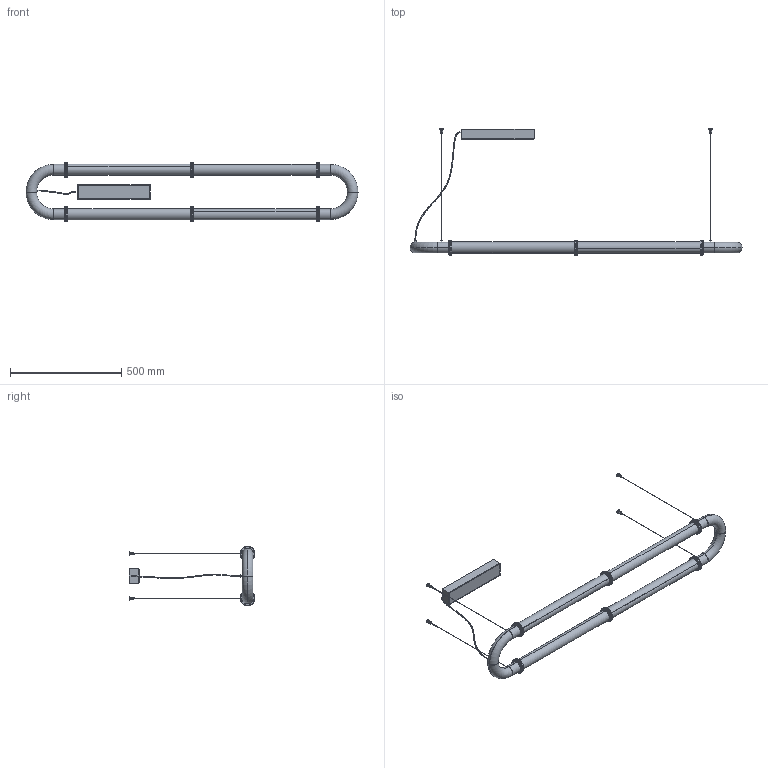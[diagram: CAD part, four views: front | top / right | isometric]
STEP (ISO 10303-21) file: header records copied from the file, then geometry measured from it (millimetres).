
FILE_DESCRIPTION (( 'STEP AP203' ), '1' );
FILE_NAME ('FBN05.LS02.AF01.R00 - Render.STEP', '2026-04-02T10:23:53', ( '' ), ( '' ), 'SwSTEP 2.0', 'SolidWorks 2025', '' );
FILE_SCHEMA (( 'CONFIG_CONTROL_DESIGN' ));
Length unit declared in the file: millimetre
Products named in the file (23): FBN05.LS03.C007.R1A; FBN05.LS01.C001.R00; FBN05.LS03.C016.R10; FBN05.LS02.AF01.R00 - Render; FBN05.LS03.C012.R10; Rosone Cilindrico Ø16 Ø10x18 - Beretta 2031.0802; FBN05.LS04.C010.R10; FBN05.LS02.C001.R00; FBN05.LS03.C006.R1A; FBN05.LS04.C024.R1A; FBN05.LS04.C008.R1A; FBN05.LS01.C003.R00; FBN05.LS03.C098.R00; FBN05.LS03.C014.R1A; FBN05.LS03.C010.R1A; Morsetto Automatico M8x1 Fune Acciaio - Beretta 1010-0802; FBN05.LS01.C095.R00; Grani Steab_GRANO M4X0.7 L.4 NERO CAVA ESAGONALE; F44 M01; FBN05.LS03.C015.R1A; FBN05.LS03.C009.R1A; FBN05.LS01.C002.R00; socket countersunk head screw_1_iso_ISO 10642 - M3 x 6 - 6C
Assembly tree (158 placements, depth 2):
  FBN05.LS02.AF01.R00 - Render
    Grani Steab_GRANO M4X0.7 L.4 NERO CAVA ESAGONALE
    Rosone Cilindrico Ø16 Ø10x18 - Beretta 2031.0802  x4
    Morsetto Automatico M8x1 Fune Acciaio - Beretta 1010-0802  x4
    socket countersunk head screw_1_iso_ISO 10642 - M3 x 6 - 6C  x8
    FBN05.LS03.C015.R1A  x2
    FBN05.LS04.C024.R1A  x4
    FBN05.LS03.C010.R1A  x6
    FBN05.LS04.C008.R1A  x4
    FBN05.LS03.C014.R1A  x48
    FBN05.LS03.C016.R10  x48
    FBN05.LS03.C007.R1A  x4
    FBN05.LS01.C001.R00
    FBN05.LS01.C095.R00
    FBN05.LS02.C001.R00  x2
    FBN05.LS03.C006.R1A  x4
    FBN05.LS01.C003.R00
    FBN05.LS03.C098.R00  x4
    FBN05.LS03.C012.R10  x4
    F44 M01
    FBN05.LS01.C002.R00
    FBN05.LS03.C009.R1A  x4
    FBN05.LS04.C010.R10  x2
Bounding box: 1490 x 565.22 x 266.44 mm (x, y, z)
Volume: 2898507.4 mm3; surface area: 1388945.2 mm2
Topology: 158 solids, 158 shells, 3459 faces, 7976 edges, 4972 vertices
Faces by surface type: cylinder 1558, plane 945, cone 522, sphere 392, torus 40, bspline 2
Entity records: 25052 total; most frequent: CARTESIAN_POINT 5003, DIRECTION 3315, ORIENTED_EDGE 2576, AXIS2_PLACEMENT_3D 1389, EDGE_CURVE 1288, VERTEX_POINT 813, EDGE_LOOP 733, CIRCLE 681
